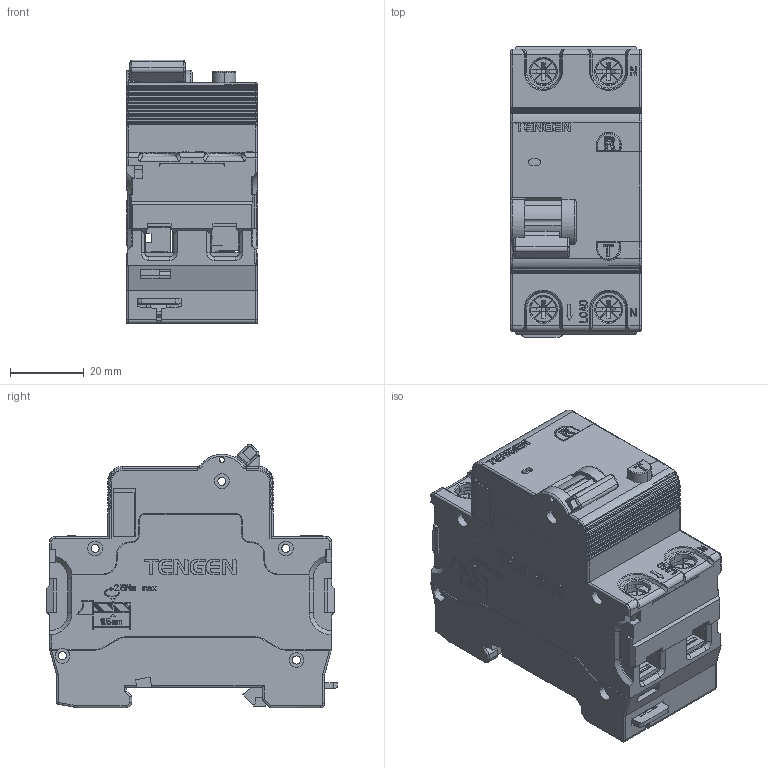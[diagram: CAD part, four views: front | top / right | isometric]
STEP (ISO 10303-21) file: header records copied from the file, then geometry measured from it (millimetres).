
FILE_DESCRIPTION (( 'STEP AP214' ), '1' );
FILE_NAME ('TGB1NLE(LA)-63Y 1P+N.STEP', '2025-12-12T12:26:51', ( '' ), ( '' ), 'SwSTEP 2.0', 'SolidWorks 2024', '' );
FILE_SCHEMA (( 'AUTOMOTIVE_DESIGN' ));
Length unit declared in the file: millimetre
Products named in the file (5): 2TZD_253_6045_SW0002_3.stp; 2TZD_253_6045_SW0002_1.stp; TGB1NLE(LA)-63Y 1P+N.stp; TGB1NLE(LA)-63Y 1P+N; 2TZD_253_6045_SW0002_2.stp
Assembly tree (4 placements, depth 3):
  TGB1NLE(LA)-63Y 1P+N
    TGB1NLE(LA)-63Y 1P+N.stp
      2TZD_253_6045_SW0002_1.stp
      2TZD_253_6045_SW0002_2.stp
      2TZD_253_6045_SW0002_3.stp
Bounding box: 35.6 x 78.8 x 71.52 mm (x, y, z)
Volume: 38922.9 mm3; surface area: 58006.5 mm2
Topology: 3 solids, 3 shells, 5666 faces, 15517 edges, 9853 vertices
Faces by surface type: plane 3605, cylinder 1328, torus 250, bspline 240, cone 191, sphere 52
Entity records: 194518 total; most frequent: CARTESIAN_POINT 52308, ORIENTED_EDGE 30924, DIRECTION 27842, EDGE_CURVE 15462, LINE 11304, VECTOR 11304, VERTEX_POINT 9844, AXIS2_PLACEMENT_3D 8269
